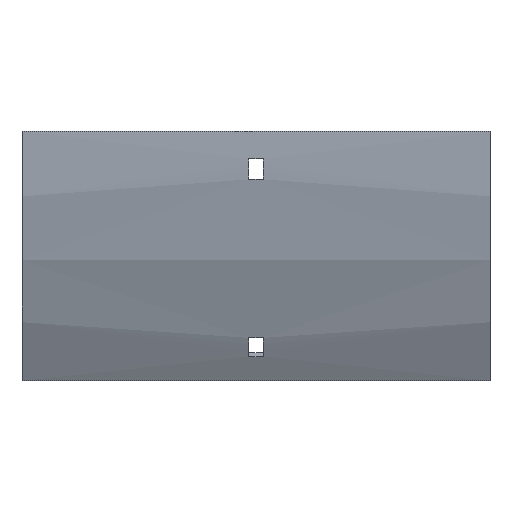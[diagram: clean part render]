
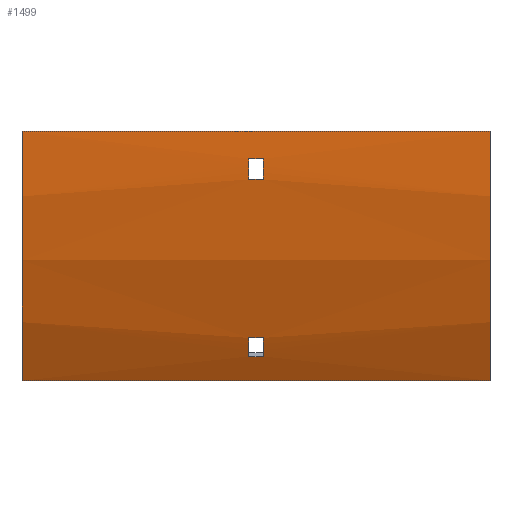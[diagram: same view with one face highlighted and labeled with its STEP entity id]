
A CAD part, front view. The second image highlights one B-rep face of the part: STEP entity #1499.
In plain terms, the highlighted cylindrical face has radius 217.5 mm (diameter 435 mm), a partial arc.
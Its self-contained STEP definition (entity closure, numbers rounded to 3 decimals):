
#47 = DIRECTION ( 'NONE',  ( 0., 0., 1. ) ) ;
#50 = VERTEX_POINT ( 'NONE', #372 ) ;
#105 = VERTEX_POINT ( 'NONE', #538 ) ;
#126 = CARTESIAN_POINT ( 'NONE',  ( -3.25, -97.98, -90.055 ) ) ;
#137 = ORIENTED_EDGE ( 'NONE', *, *, #1604, .T. ) ;
#150 = VERTEX_POINT ( 'NONE', #126 ) ;
#176 = DIRECTION ( 'NONE',  ( 0., 0., -1. ) ) ;
#185 = DIRECTION ( 'NONE',  ( -1., 0., 0. ) ) ;
#224 = EDGE_CURVE ( 'NONE', #691, #105, #551, .T. ) ;
#227 = AXIS2_PLACEMENT_3D ( 'NONE', #1250, #761, #1411 ) ;
#248 = ORIENTED_EDGE ( 'NONE', *, *, #224, .F. ) ;
#261 = FACE_OUTER_BOUND ( 'NONE', #1672, .T. ) ;
#281 = EDGE_CURVE ( 'NONE', #858, #691, #594, .T. ) ;
#308 = LINE ( 'NONE', #1318, #1607 ) ;
#318 = DIRECTION ( 'NONE',  ( -1., 0., 0. ) ) ;
#326 = EDGE_CURVE ( 'NONE', #1197, #1060, #529, .T. ) ;
#336 = AXIS2_PLACEMENT_3D ( 'NONE', #1364, #1330, #176 ) ;
#341 = DIRECTION ( 'NONE',  ( 0., 0., 1. ) ) ;
#353 = EDGE_CURVE ( 'NONE', #462, #1550, #308, .T. ) ;
#358 = CARTESIAN_POINT ( 'NONE',  ( -3.25, -116.484, -21. ) ) ;
#372 = CARTESIAN_POINT ( 'NONE',  ( 3.25, -117.169, -12. ) ) ;
#378 = FACE_BOUND ( 'NONE', #1078, .T. ) ;
#399 = LINE ( 'NONE', #1693, #1416 ) ;
#407 = DIRECTION ( 'NONE',  ( 1., 0., 0. ) ) ;
#411 = AXIS2_PLACEMENT_3D ( 'NONE', #593, #318, #341 ) ;
#421 = DIRECTION ( 'NONE',  ( 0., 0., -1. ) ) ;
#429 = CARTESIAN_POINT ( 'NONE',  ( 3.25, -116.484, -21. ) ) ;
#443 = CIRCLE ( 'NONE', #1539, 217.5 ) ;
#446 = DIRECTION ( 'NONE',  ( 1., 0., 0. ) ) ;
#462 = VERTEX_POINT ( 'NONE', #1252 ) ;
#474 = CARTESIAN_POINT ( 'NONE',  ( 102., -117.169, -12. ) ) ;
#529 = CIRCLE ( 'NONE', #1463, 217.5 ) ;
#538 = CARTESIAN_POINT ( 'NONE',  ( -102., -88.361, -108.75 ) ) ;
#544 = CARTESIAN_POINT ( 'NONE',  ( 102., -117.5, 0. ) ) ;
#551 = LINE ( 'NONE', #1626, #643 ) ;
#557 = EDGE_CURVE ( 'NONE', #1554, #150, #399, .T. ) ;
#591 = ORIENTED_EDGE ( 'NONE', *, *, #1138, .T. ) ;
#593 = CARTESIAN_POINT ( 'NONE',  ( 3.25, 100., 0. ) ) ;
#594 = CIRCLE ( 'NONE', #1315, 217.5 ) ;
#623 = CYLINDRICAL_SURFACE ( 'NONE', #1571, 217.5 ) ;
#635 = EDGE_CURVE ( 'NONE', #50, #644, #443, .T. ) ;
#643 = VECTOR ( 'NONE', #185, 1000. ) ;
#644 = VERTEX_POINT ( 'NONE', #429 ) ;
#659 = CARTESIAN_POINT ( 'NONE',  ( 102., -116.484, -21. ) ) ;
#660 = CARTESIAN_POINT ( 'NONE',  ( -3.25, 100., 0. ) ) ;
#670 = LINE ( 'NONE', #659, #744 ) ;
#691 = VERTEX_POINT ( 'NONE', #1017 ) ;
#744 = VECTOR ( 'NONE', #1057, 1000. ) ;
#755 = DIRECTION ( 'NONE',  ( -1., 0., 0. ) ) ;
#761 = DIRECTION ( 'NONE',  ( 1., 0., 0. ) ) ;
#768 = CARTESIAN_POINT ( 'NONE',  ( 3.25, -97.98, -90.055 ) ) ;
#787 = LINE ( 'NONE', #544, #1071 ) ;
#816 = CARTESIAN_POINT ( 'NONE',  ( 102., -117.5, 0. ) ) ;
#830 = ORIENTED_EDGE ( 'NONE', *, *, #557, .F. ) ;
#858 = VERTEX_POINT ( 'NONE', #816 ) ;
#868 = CARTESIAN_POINT ( 'NONE',  ( 3.25, -94.074, -98.192 ) ) ;
#870 = EDGE_LOOP ( 'NONE', ( #1619, #830, #1147, #1506 ) ) ;
#957 = CIRCLE ( 'NONE', #227, 217.5 ) ;
#959 = DIRECTION ( 'NONE',  ( 0., 0., -1. ) ) ;
#1017 = CARTESIAN_POINT ( 'NONE',  ( 102., -88.361, -108.75 ) ) ;
#1034 = CARTESIAN_POINT ( 'NONE',  ( 102., 100., 0. ) ) ;
#1057 = DIRECTION ( 'NONE',  ( -1., 0., 0. ) ) ;
#1060 = VERTEX_POINT ( 'NONE', #1080 ) ;
#1071 = VECTOR ( 'NONE', #1170, 1000. ) ;
#1073 = CARTESIAN_POINT ( 'NONE',  ( 3.25, 100., 0. ) ) ;
#1078 = EDGE_LOOP ( 'NONE', ( #1576, #1270, #1299, #1407 ) ) ;
#1080 = CARTESIAN_POINT ( 'NONE',  ( -3.25, -117.169, -12. ) ) ;
#1086 = CIRCLE ( 'NONE', #411, 217.5 ) ;
#1105 = DIRECTION ( 'NONE',  ( 1., 0., 0. ) ) ;
#1138 = EDGE_CURVE ( 'NONE', #1359, #105, #957, .T. ) ;
#1147 = ORIENTED_EDGE ( 'NONE', *, *, #1368, .F. ) ;
#1170 = DIRECTION ( 'NONE',  ( -1., 0., 0. ) ) ;
#1183 = ORIENTED_EDGE ( 'NONE', *, *, #281, .F. ) ;
#1197 = VERTEX_POINT ( 'NONE', #358 ) ;
#1250 = CARTESIAN_POINT ( 'NONE',  ( -102., 100., 0. ) ) ;
#1252 = CARTESIAN_POINT ( 'NONE',  ( -3.25, -94.074, -98.192 ) ) ;
#1270 = ORIENTED_EDGE ( 'NONE', *, *, #326, .T. ) ;
#1299 = ORIENTED_EDGE ( 'NONE', *, *, #1470, .T. ) ;
#1307 = DIRECTION ( 'NONE',  ( -1., 0., 0. ) ) ;
#1315 = AXIS2_PLACEMENT_3D ( 'NONE', #1618, #446, #959 ) ;
#1318 = CARTESIAN_POINT ( 'NONE',  ( 102., -94.074, -98.192 ) ) ;
#1325 = DIRECTION ( 'NONE',  ( 1., 0., 0. ) ) ;
#1330 = DIRECTION ( 'NONE',  ( 1., 0., 0. ) ) ;
#1359 = VERTEX_POINT ( 'NONE', #1429 ) ;
#1364 = CARTESIAN_POINT ( 'NONE',  ( -3.25, 100., 0. ) ) ;
#1368 = EDGE_CURVE ( 'NONE', #1550, #1554, #1086, .T. ) ;
#1372 = EDGE_CURVE ( 'NONE', #150, #462, #1440, .T. ) ;
#1407 = ORIENTED_EDGE ( 'NONE', *, *, #635, .T. ) ;
#1411 = DIRECTION ( 'NONE',  ( 0., 0., -1. ) ) ;
#1416 = VECTOR ( 'NONE', #755, 1000. ) ;
#1429 = CARTESIAN_POINT ( 'NONE',  ( -102., -117.5, 0. ) ) ;
#1440 = CIRCLE ( 'NONE', #336, 217.5 ) ;
#1463 = AXIS2_PLACEMENT_3D ( 'NONE', #660, #1307, #47 ) ;
#1470 = EDGE_CURVE ( 'NONE', #1060, #50, #1651, .T. ) ;
#1499 = ADVANCED_FACE ( 'NONE', ( #261, #378, #1659 ), #623, .T. ) ;
#1506 = ORIENTED_EDGE ( 'NONE', *, *, #353, .F. ) ;
#1522 = VECTOR ( 'NONE', #1105, 1000. ) ;
#1539 = AXIS2_PLACEMENT_3D ( 'NONE', #1073, #1325, #421 ) ;
#1550 = VERTEX_POINT ( 'NONE', #868 ) ;
#1554 = VERTEX_POINT ( 'NONE', #768 ) ;
#1571 = AXIS2_PLACEMENT_3D ( 'NONE', #1034, #1680, #1671 ) ;
#1576 = ORIENTED_EDGE ( 'NONE', *, *, #1601, .T. ) ;
#1601 = EDGE_CURVE ( 'NONE', #644, #1197, #670, .T. ) ;
#1604 = EDGE_CURVE ( 'NONE', #858, #1359, #787, .T. ) ;
#1607 = VECTOR ( 'NONE', #407, 1000. ) ;
#1618 = CARTESIAN_POINT ( 'NONE',  ( 102., 100., 0. ) ) ;
#1619 = ORIENTED_EDGE ( 'NONE', *, *, #1372, .F. ) ;
#1626 = CARTESIAN_POINT ( 'NONE',  ( 102., -88.361, -108.75 ) ) ;
#1651 = LINE ( 'NONE', #474, #1522 ) ;
#1659 = FACE_BOUND ( 'NONE', #870, .T. ) ;
#1671 = DIRECTION ( 'NONE',  ( 0., 0., 1. ) ) ;
#1672 = EDGE_LOOP ( 'NONE', ( #591, #248, #1183, #137 ) ) ;
#1680 = DIRECTION ( 'NONE',  ( -1., 0., 0. ) ) ;
#1693 = CARTESIAN_POINT ( 'NONE',  ( 102., -97.98, -90.055 ) ) ;
